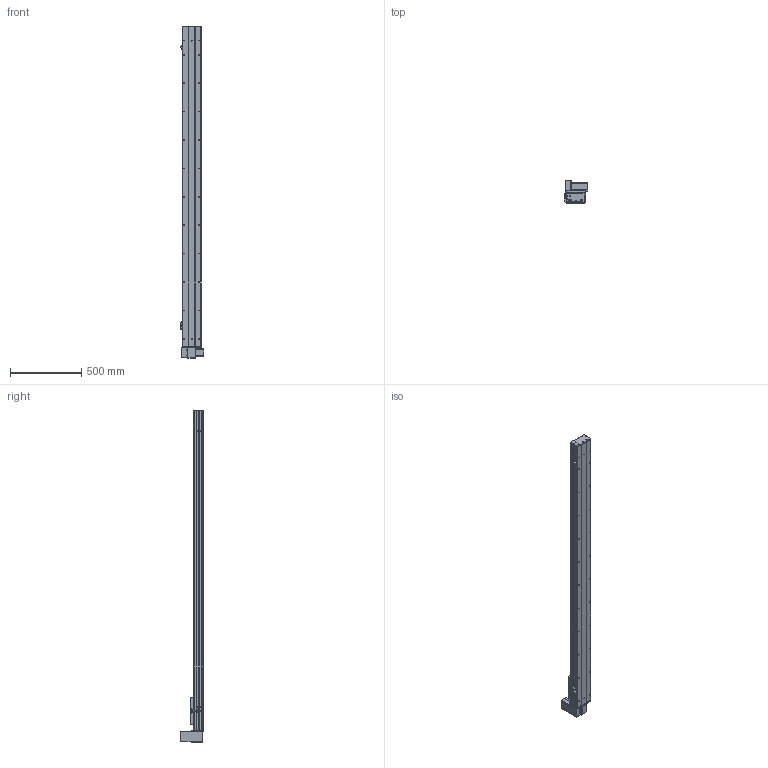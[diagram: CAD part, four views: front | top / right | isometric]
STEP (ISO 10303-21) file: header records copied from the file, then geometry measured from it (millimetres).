
FILE_DESCRIPTION (( 'STEP AP203' ), '1' );
FILE_NAME ('Y135CB-D90-S1950-UR-P400W.STEP', '2020-02-18T06:21:48', ( '微软用户' ), ( '微软中国' ), 'SwSTEP 2.0', 'SolidWorks 2017', '' );
FILE_SCHEMA (( 'CONFIG_CONTROL_DESIGN' ));
Length unit declared in the file: millimetre
Products named in the file (18): Y135CB-D90-S1950-UR-P400W; 135CB--詩湍-CE; 135CB---遴掛极.-; Y100-135俋离換覜ん--; 35CB---喘謫眊楊擘啣; Y135C-陔俋离換覜結え-; 0B-埴倛裔啣; 5C--俋欶; 0B-源倛裔啣; C-雄赽釱--; 0B-萇儂楊擘啣; Y10B--々湍喘謫眊--666; san松下电机400不带刹车----; Y10B-耜蚾蟀諉啣----; 5CB --掛极耜裔啣-; 00B-俋欶BM--; C-詩湍揤踡え-陔; Y135CB-耜裔
Assembly tree (21 placements, depth 2):
  Y135CB-D90-S1950-UR-P400W
    Y135CB-耜裔
    135CB---遴掛极.-
    35CB---喘謫眊楊擘啣
    0B-埴倛裔啣
    0B-源倛裔啣
    0B-萇儂楊擘啣
    san松下电机400不带刹车----
    5CB --掛极耜裔啣-  x2
    C-詩湍揤踡え-陔  x2
    135CB--詩湍-CE
    Y100-135俋离換覜ん--  x3
    Y135C-陔俋离換覜結え-
    5C--俋欶
    C-雄赽釱--
    Y10B--々湍喘謫眊--666
    Y10B-耜蚾蟀諉啣----
    00B-俋欶BM--
Bounding box: 167.5 x 158.7 x 2338 mm (x, y, z)
Volume: 6853461.4 mm3; surface area: 2706642 mm2
Topology: 21 solids, 21 shells, 965 faces, 2617 edges, 1734 vertices
Faces by surface type: cylinder 493, plane 456, cone 16
Entity records: 30359 total; most frequent: DIRECTION 5045, CARTESIAN_POINT 5032, ORIENTED_EDGE 4710, EDGE_CURVE 2355, AXIS2_PLACEMENT_3D 1847, VERTEX_POINT 1562, LINE 1351, VECTOR 1351
